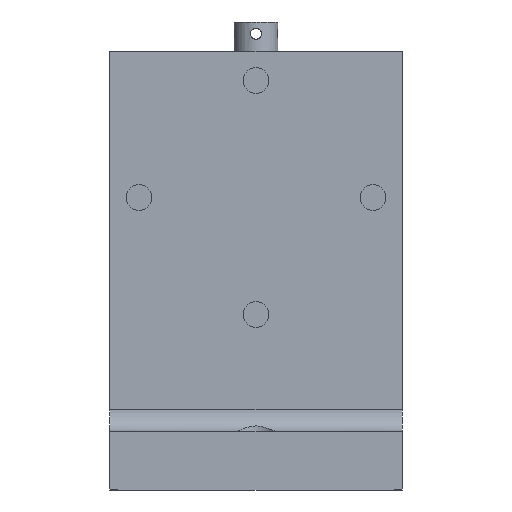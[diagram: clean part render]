
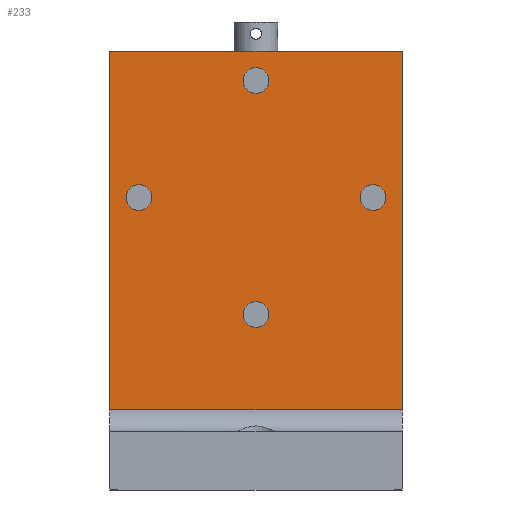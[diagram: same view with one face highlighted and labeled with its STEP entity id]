
A CAD part, front view. The second image highlights one B-rep face of the part: STEP entity #233.
In plain terms, the highlighted planar face has unit normal (0, -1, 0).
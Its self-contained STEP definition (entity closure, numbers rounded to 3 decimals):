
#233 = ADVANCED_FACE( '', ( #404, #405, #406, #407, #408 ), #409, .T. );
#404 = FACE_BOUND( '', #777, .T. );
#405 = FACE_BOUND( '', #778, .T. );
#406 = FACE_BOUND( '', #779, .T. );
#407 = FACE_BOUND( '', #780, .T. );
#408 = FACE_OUTER_BOUND( '', #781, .T. );
#409 = PLANE( '', #782 );
#777 = EDGE_LOOP( '', ( #1221 ) );
#778 = EDGE_LOOP( '', ( #1222 ) );
#779 = EDGE_LOOP( '', ( #1223 ) );
#780 = EDGE_LOOP( '', ( #1224 ) );
#781 = EDGE_LOOP( '', ( #1225, #1226, #1227, #1228 ) );
#782 = AXIS2_PLACEMENT_3D( '', #1229, #1230, #1231 );
#1221 = ORIENTED_EDGE( '', *, *, #2170, .T. );
#1222 = ORIENTED_EDGE( '', *, *, #2172, .T. );
#1223 = ORIENTED_EDGE( '', *, *, #2174, .T. );
#1224 = ORIENTED_EDGE( '', *, *, #2176, .T. );
#1225 = ORIENTED_EDGE( '', *, *, #2195, .F. );
#1226 = ORIENTED_EDGE( '', *, *, #2162, .T. );
#1227 = ORIENTED_EDGE( '', *, *, #2196, .F. );
#1228 = ORIENTED_EDGE( '', *, *, #2138, .F. );
#1229 = CARTESIAN_POINT( '', ( -192.814, -32., 60. ) );
#1230 = DIRECTION( '', ( 0., -1., 0. ) );
#1231 = DIRECTION( '', ( 0., 0., -1. ) );
#2138 = EDGE_CURVE( '', #2456, #2458, #2459, .T. );
#2162 = EDGE_CURVE( '', #2503, #2501, #2504, .T. );
#2170 = EDGE_CURVE( '', #2517, #2517, #2518, .T. );
#2172 = EDGE_CURVE( '', #2521, #2521, #2522, .T. );
#2174 = EDGE_CURVE( '', #2525, #2525, #2526, .T. );
#2176 = EDGE_CURVE( '', #2529, #2529, #2530, .T. );
#2195 = EDGE_CURVE( '', #2503, #2456, #2562, .T. );
#2196 = EDGE_CURVE( '', #2458, #2501, #2563, .T. );
#2456 = VERTEX_POINT( '', #3010 );
#2458 = VERTEX_POINT( '', #3013 );
#2459 = LINE( '', #3014, #3015 );
#2501 = VERTEX_POINT( '', #3159 );
#2503 = VERTEX_POINT( '', #3161 );
#2504 = LINE( '', #3162, #3163 );
#2517 = VERTEX_POINT( '', #3185 );
#2518 = CIRCLE( '', #3186, 1.75 );
#2521 = VERTEX_POINT( '', #3189 );
#2522 = CIRCLE( '', #3190, 1.75 );
#2525 = VERTEX_POINT( '', #3193 );
#2526 = CIRCLE( '', #3194, 1.75 );
#2529 = VERTEX_POINT( '', #3197 );
#2530 = CIRCLE( '', #3198, 1.75 );
#2562 = LINE( '', #3239, #3240 );
#2563 = LINE( '', #3241, #3242 );
#3010 = CARTESIAN_POINT( '', ( 0., -32., 60. ) );
#3013 = CARTESIAN_POINT( '', ( 40., -32., 60. ) );
#3014 = CARTESIAN_POINT( '', ( -192.814, -32., 60. ) );
#3015 = VECTOR( '', #4004, 1000. );
#3159 = CARTESIAN_POINT( '', ( 40., -32., 11. ) );
#3161 = CARTESIAN_POINT( '', ( 0., -32., 11. ) );
#3162 = CARTESIAN_POINT( '', ( -192.814, -32., 11. ) );
#3163 = VECTOR( '', #4042, 1000. );
#3185 = CARTESIAN_POINT( '', ( 4., -32., 38.25 ) );
#3186 = AXIS2_PLACEMENT_3D( '', #4057, #4058, #4059 );
#3189 = CARTESIAN_POINT( '', ( 18.25, -32., 56. ) );
#3190 = AXIS2_PLACEMENT_3D( '', #4063, #4064, #4065 );
#3193 = CARTESIAN_POINT( '', ( 36., -32., 41.75 ) );
#3194 = AXIS2_PLACEMENT_3D( '', #4069, #4070, #4071 );
#3197 = CARTESIAN_POINT( '', ( 21.75, -32., 24. ) );
#3198 = AXIS2_PLACEMENT_3D( '', #4075, #4076, #4077 );
#3239 = CARTESIAN_POINT( '', ( 0., -32., 0. ) );
#3240 = VECTOR( '', #4114, 1000. );
#3241 = CARTESIAN_POINT( '', ( 40., -32., 0. ) );
#3242 = VECTOR( '', #4115, 1000. );
#4004 = DIRECTION( '', ( 1., 0., 0. ) );
#4042 = DIRECTION( '', ( 1., 0., 0. ) );
#4057 = CARTESIAN_POINT( '', ( 4., -32., 40. ) );
#4058 = DIRECTION( '', ( 0., 1., 0. ) );
#4059 = DIRECTION( '', ( 0., 0., -1. ) );
#4063 = CARTESIAN_POINT( '', ( 20., -32., 56. ) );
#4064 = DIRECTION( '', ( 0., 1., 0. ) );
#4065 = DIRECTION( '', ( -1., 0., 0. ) );
#4069 = CARTESIAN_POINT( '', ( 36., -32., 40. ) );
#4070 = DIRECTION( '', ( 0., 1., 0. ) );
#4071 = DIRECTION( '', ( 0., 0., 1. ) );
#4075 = CARTESIAN_POINT( '', ( 20., -32., 24. ) );
#4076 = DIRECTION( '', ( 0., 1., 0. ) );
#4077 = DIRECTION( '', ( 1., 0., 0. ) );
#4114 = DIRECTION( '', ( 0., 0., 1. ) );
#4115 = DIRECTION( '', ( 0., 0., -1. ) );
